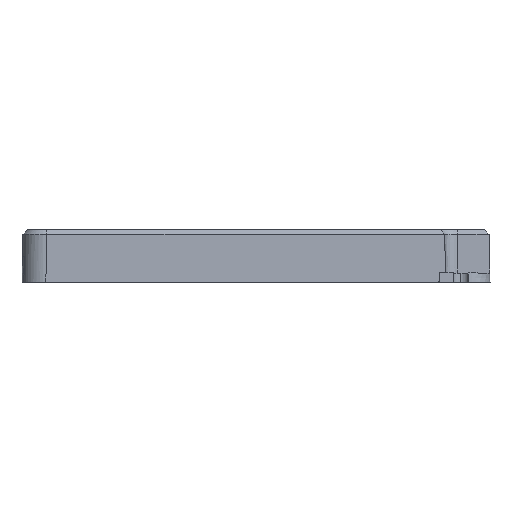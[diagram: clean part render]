
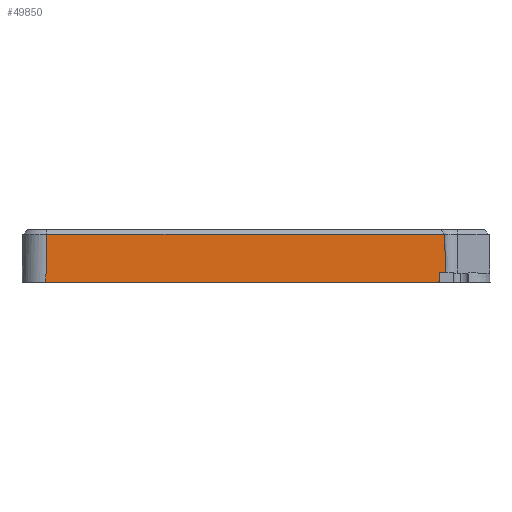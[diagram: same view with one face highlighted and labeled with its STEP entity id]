
A CAD part, top view. The second image highlights one B-rep face of the part: STEP entity #49850.
In plain terms, the highlighted planar face has unit normal (0, 0.018, 1).
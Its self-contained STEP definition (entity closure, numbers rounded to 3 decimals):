
#48511 = VERTEX_POINT('',#48512);
#48512 = CARTESIAN_POINT('',(-43.83,9.8,
    22.779));
#48519 = EDGE_CURVE('',#48511,#48520,#48522,.T.);
#48520 = VERTEX_POINT('',#48521);
#48521 = CARTESIAN_POINT('',(39.517,9.8,
    22.779));
#48522 = LINE('',#48523,#48524);
#48523 = CARTESIAN_POINT('',(-2.165,9.8,
    22.779));
#48524 = VECTOR('',#48525,1.);
#48525 = DIRECTION('',(1.,0.,0.));
#49850 = ADVANCED_FACE('',(#49851),#49892,.T.);
#49851 = FACE_BOUND('',#49852,.T.);
#49852 = EDGE_LOOP('',(#49853,#49861,#49869,#49877,#49885,#49891));
#49853 = ORIENTED_EDGE('',*,*,#49854,.T.);
#49854 = EDGE_CURVE('',#48511,#49855,#49857,.T.);
#49855 = VERTEX_POINT('',#49856);
#49856 = CARTESIAN_POINT('',(-44.004,-0.2,22.953));
#49857 = LINE('',#49858,#49859);
#49858 = CARTESIAN_POINT('',(-43.83,9.8,
    22.779));
#49859 = VECTOR('',#49860,1.);
#49860 = DIRECTION('',(-0.017,-1.,
    0.017));
#49861 = ORIENTED_EDGE('',*,*,#49862,.T.);
#49862 = EDGE_CURVE('',#49855,#49863,#49865,.T.);
#49863 = VERTEX_POINT('',#49864);
#49864 = CARTESIAN_POINT('',(38.303,-0.2,22.953));
#49865 = LINE('',#49866,#49867);
#49866 = CARTESIAN_POINT('',(-66.555,-0.2,22.953));
#49867 = VECTOR('',#49868,1.);
#49868 = DIRECTION('',(1.,0.,0.));
#49869 = ORIENTED_EDGE('',*,*,#49870,.T.);
#49870 = EDGE_CURVE('',#49863,#49871,#49873,.T.);
#49871 = VERTEX_POINT('',#49872);
#49872 = CARTESIAN_POINT('',(38.402,1.7,22.92));
#49873 = LINE('',#49874,#49875);
#49874 = CARTESIAN_POINT('',(38.303,-0.2,22.953));
#49875 = VECTOR('',#49876,1.);
#49876 = DIRECTION('',(0.052,0.998,
    -0.017));
#49877 = ORIENTED_EDGE('',*,*,#49878,.F.);
#49878 = EDGE_CURVE('',#49879,#49871,#49881,.T.);
#49879 = VERTEX_POINT('',#49880);
#49880 = CARTESIAN_POINT('',(39.659,1.7,22.92));
#49881 = LINE('',#49882,#49883);
#49882 = CARTESIAN_POINT('',(-14.75,1.7,22.92));
#49883 = VECTOR('',#49884,1.);
#49884 = DIRECTION('',(-1.,-0.,-0.));
#49885 = ORIENTED_EDGE('',*,*,#49886,.T.);
#49886 = EDGE_CURVE('',#49879,#48520,#49887,.T.);
#49887 = LINE('',#49888,#49889);
#49888 = CARTESIAN_POINT('',(39.659,1.7,22.92));
#49889 = VECTOR('',#49890,1.);
#49890 = DIRECTION('',(-0.017,1.,
    -0.017));
#49891 = ORIENTED_EDGE('',*,*,#48519,.F.);
#49892 = PLANE('',#49893);
#49893 = AXIS2_PLACEMENT_3D('',#49894,#49895,#49896);
#49894 = CARTESIAN_POINT('',(-66.555,0.,22.95));
#49895 = DIRECTION('',(0.,0.017,1.));
#49896 = DIRECTION('',(0.,-1.,0.017));
